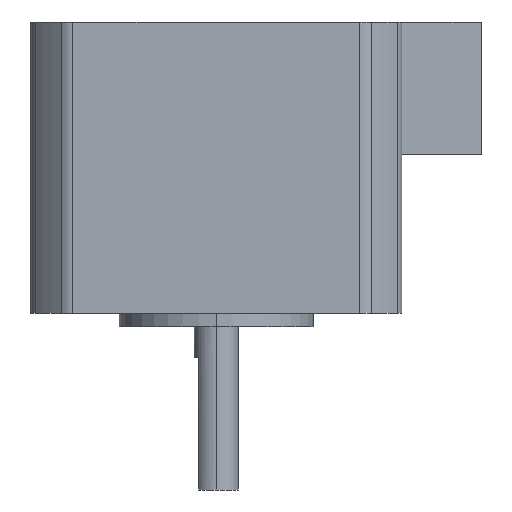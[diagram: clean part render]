
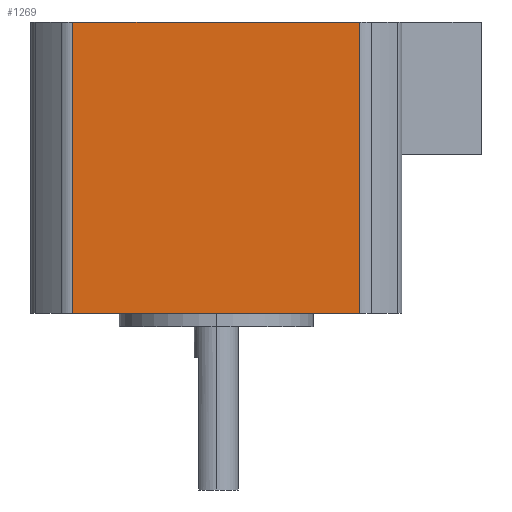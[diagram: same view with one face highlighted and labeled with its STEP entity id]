
A CAD part, left-side view. The second image highlights one B-rep face of the part: STEP entity #1269.
In plain terms, the highlighted planar face has unit normal (-1, 0, 0).
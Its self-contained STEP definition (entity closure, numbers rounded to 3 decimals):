
#33 = AXIS2_PLACEMENT_3D ( 'NONE', #1056, #2002, #2956 ) ;
#71 = PLANE ( 'NONE',  #33 ) ;
#140 = EDGE_CURVE ( 'NONE', #2154, #1309, #2715, .T. ) ;
#187 = ORIENTED_EDGE ( 'NONE', *, *, #301, .F. ) ;
#301 = EDGE_CURVE ( 'NONE', #1309, #1771, #927, .T. ) ;
#438 = ORIENTED_EDGE ( 'NONE', *, *, #2578, .T. ) ;
#455 = CARTESIAN_POINT ( 'NONE',  ( -21., -16.248, 0. ) ) ;
#551 = CARTESIAN_POINT ( 'NONE',  ( -21., 16.248, 33. ) ) ;
#620 = VECTOR ( 'NONE', #623, 1000. ) ;
#623 = DIRECTION ( 'NONE',  ( 0., 0., -1. ) ) ;
#927 = LINE ( 'NONE', #1892, #2529 ) ;
#1022 = VECTOR ( 'NONE', #1554, 1000. ) ;
#1056 = CARTESIAN_POINT ( 'NONE',  ( -21., 16.248, 24.5 ) ) ;
#1269 = ADVANCED_FACE ( 'NONE', ( #2247 ), #71, .F. ) ;
#1285 = VERTEX_POINT ( 'NONE', #1575 ) ;
#1291 = EDGE_LOOP ( 'NONE', ( #438, #1439, #187, #3067 ) ) ;
#1309 = VERTEX_POINT ( 'NONE', #2508 ) ;
#1439 = ORIENTED_EDGE ( 'NONE', *, *, #2278, .T. ) ;
#1462 = DIRECTION ( 'NONE',  ( 0., -1., 0. ) ) ;
#1510 = CARTESIAN_POINT ( 'NONE',  ( -21., -16.248, 0. ) ) ;
#1554 = DIRECTION ( 'NONE',  ( 0., -1., 0. ) ) ;
#1575 = CARTESIAN_POINT ( 'NONE',  ( -21., 16.248, 0. ) ) ;
#1771 = VERTEX_POINT ( 'NONE', #1510 ) ;
#1834 = LINE ( 'NONE', #2783, #620 ) ;
#1892 = CARTESIAN_POINT ( 'NONE',  ( -21., -16.248, 24.5 ) ) ;
#2002 = DIRECTION ( 'NONE',  ( 1., 0., 0. ) ) ;
#2154 = VERTEX_POINT ( 'NONE', #2747 ) ;
#2247 = FACE_OUTER_BOUND ( 'NONE', #1291, .T. ) ;
#2278 = EDGE_CURVE ( 'NONE', #1285, #1771, #2620, .T. ) ;
#2508 = CARTESIAN_POINT ( 'NONE',  ( -21., -16.248, 33. ) ) ;
#2529 = VECTOR ( 'NONE', #2842, 1000. ) ;
#2578 = EDGE_CURVE ( 'NONE', #2154, #1285, #1834, .T. ) ;
#2620 = LINE ( 'NONE', #455, #3013 ) ;
#2715 = LINE ( 'NONE', #551, #1022 ) ;
#2747 = CARTESIAN_POINT ( 'NONE',  ( -21., 16.248, 33. ) ) ;
#2783 = CARTESIAN_POINT ( 'NONE',  ( -21., 16.248, 24.5 ) ) ;
#2842 = DIRECTION ( 'NONE',  ( 0., 0., -1. ) ) ;
#2956 = DIRECTION ( 'NONE',  ( 0., 1., 0. ) ) ;
#3013 = VECTOR ( 'NONE', #1462, 1000. ) ;
#3067 = ORIENTED_EDGE ( 'NONE', *, *, #140, .F. ) ;
